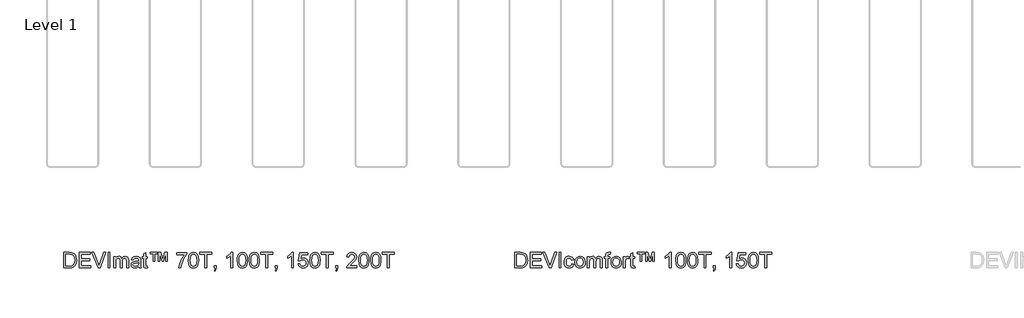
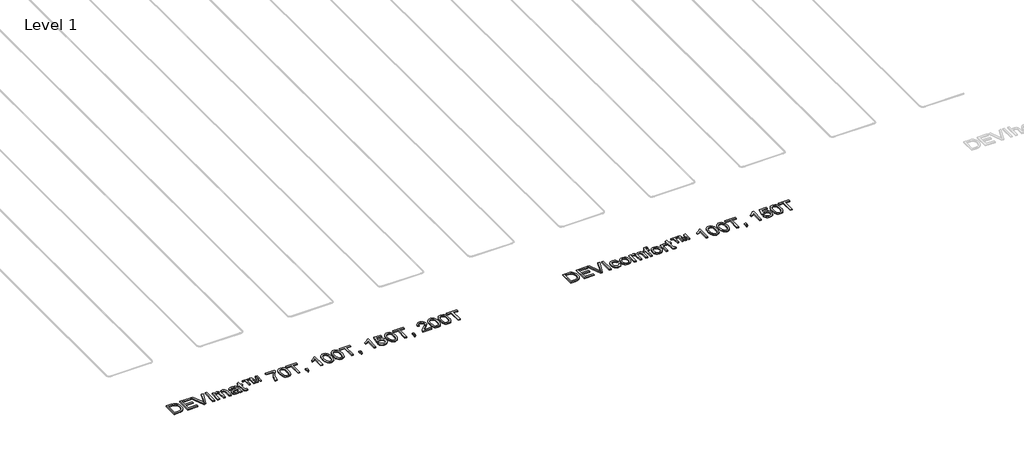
# One storey, part 10 of 26: 2 proxies.
"""IFC4 building model written with IfcOpenShell, lengths in millimetres."""

import ifcopenshell
import ifcopenshell.guid

model = None  # the IFC model being written
_history = None  # IfcOwnerHistory: only IFC2X3 demands one
_inside = {}  # id of a spatial element -> (the spatial element, [elements in it])
_under = {}  # id of a project, library or spatial element -> (it, [spatial elements below it])
_declared = {}  # id of a project -> (the project, [libraries it declares])
_typed = {}  # id of a type object -> (the type object, [elements of that type])
_made_of = {}  # id of a material, layer set ... -> (it, [elements and type objects made of it])


def new_model(schema):
    """Start an empty IFC model of exactly this schema.

    Asked for "IFC4X3", IfcOpenShell would pick the latest addendum, in which some entities
    have other attributes; the version numbers below select the first issue.
    IFC2X3 requires an IfcOwnerHistory on every rooted entity: one is made here for all.
    """
    global model, _history
    if schema == "IFC4X3":
        model = ifcopenshell.file(schema_version=(4, 3, 0, 0))
    else:
        model = ifcopenshell.file(schema=schema)
    _inside.clear()
    _under.clear()
    _declared.clear()
    _typed.clear()
    _made_of.clear()
    _history = None
    if model.schema == "IFC2X3":
        org = make("IfcOrganization", Name="unknown")
        user = make(
            "IfcPersonAndOrganization",
            ThePerson=make("IfcPerson", FamilyName="unknown"),
            TheOrganization=org,
        )
        app = make(
            "IfcApplication",
            ApplicationDeveloper=org,
            Version="unknown",
            ApplicationFullName="unknown",
            ApplicationIdentifier="unknown",
        )
        _history = make(
            "IfcOwnerHistory",
            OwningUser=user,
            OwningApplication=app,
            ChangeAction="ADDED",
            CreationDate=0,
        )
    return model


def make(cls, **values):
    """One entity of the class cls with the attributes given. An attribute that is None is left unset."""
    return model.create_entity(
        cls, **{name: value for name, value in values.items() if value is not None}
    )


def rooted(cls, **values):
    """An entity with a GlobalId (a new one), such as an element, a storey or a relation."""
    return make(cls, GlobalId=ifcopenshell.guid.new(), OwnerHistory=_history, **values)


def si_unit(unit_type, name, prefix=None):
    """IfcSIUnit, for example si_unit("LENGTHUNIT", "METRE", prefix="MILLI")."""
    return make("IfcSIUnit", UnitType=unit_type, Prefix=prefix, Name=name)


def assignment(units):
    """IfcUnitAssignment: the units of a project."""
    return None if units is None else make("IfcUnitAssignment", Units=units)


def point(xyz):
    """IfcCartesianPoint."""
    return None if xyz is None else make("IfcCartesianPoint", Coordinates=xyz)


def direction(xyz):
    """IfcDirection."""
    return None if xyz is None else make("IfcDirection", DirectionRatios=xyz)


def frame(location, z_axis=None, x_axis=None):
    """IfcAxis2Placement3D, a coordinate frame: its origin and axes. An axis left out is left unset."""
    return make(
        "IfcAxis2Placement3D",
        Location=point(location),
        Axis=direction(z_axis),
        RefDirection=direction(x_axis),
    )


def origin():
    """The frame at (0, 0, 0) with its axes left unset."""
    return frame((0.0, 0.0, 0.0))


def origin_with_axes():
    """The frame at (0, 0, 0) with the z axis (0, 0, 1) and the x axis (1, 0, 0) written out."""
    return frame((0.0, 0.0, 0.0), z_axis=(0.0, 0.0, 1.0), x_axis=(1.0, 0.0, 0.0))


def place(relative_to, where):
    """IfcLocalPlacement: puts the frame where relative to a parent placement (None: the world)."""
    return make(
        "IfcLocalPlacement", PlacementRelTo=relative_to, RelativePlacement=where
    )


def context(
    kind, dimensions, precision=None, world=None, true_north=None, identifier=None
):
    """IfcGeometricRepresentationContext, for example the 3D "Model" context."""
    return make(
        "IfcGeometricRepresentationContext",
        ContextIdentifier=identifier,
        ContextType=kind,
        CoordinateSpaceDimension=dimensions,
        Precision=precision,
        WorldCoordinateSystem=world,
        TrueNorth=true_north,
    )


def project(units=None, contexts=None):
    """IfcProject with its units and contexts."""
    return rooted(
        "IfcProject",
        Name="project",
        RepresentationContexts=contexts,
        UnitsInContext=assignment(units),
    )


def spatial(cls, under=None, at=None, **own):
    """A site, building, storey or space (cls), placed at a placement, below another one or the project."""
    s = rooted(cls, ObjectPlacement=at, **own)
    if under is not None:
        _under.setdefault(under.id(), (under, []))[1].append(s)
    return s


def polyline(points):
    """IfcPolyline through the points."""
    return make("IfcPolyline", Points=[point(p) for p in points])


def outline(outer, holes=None, kind="AREA"):
    """IfcArbitraryClosedProfileDef: a profile drawn as a closed curve; with holes, ...WithVoids."""
    if holes is None:
        return make("IfcArbitraryClosedProfileDef", ProfileType=kind, OuterCurve=outer)
    return make(
        "IfcArbitraryProfileDefWithVoids",
        ProfileType=kind,
        OuterCurve=outer,
        InnerCurves=holes,
    )


def extrude(swept, where, along, depth):
    """IfcExtrudedAreaSolid: the profile swept, set in the frame where, extruded along a direction by depth."""
    return make(
        "IfcExtrudedAreaSolid",
        SweptArea=swept,
        Position=where,
        ExtrudedDirection=direction(along),
        Depth=depth,
    )


def shape(context_of_items, identifier, shape_type, items):
    """IfcShapeRepresentation: the items that make up one representation, for example the "Body"."""
    return make(
        "IfcShapeRepresentation",
        ContextOfItems=context_of_items,
        RepresentationIdentifier=identifier,
        RepresentationType=shape_type,
        Items=items,
    )


def made_of(thing, what):
    """Note that an element or type object is made of a material, layer set ...; save() writes the relation."""
    if what is not None:
        _made_of.setdefault(what.id(), (what, []))[1].append(thing)
    return thing


def element(
    cls,
    number,
    at=None,
    inside=None,
    cuts=None,
    type_object=None,
    material=None,
    context=None,
    identifier="Body",
    shape_type=None,
    held_by="IfcProductDefinitionShape",
    body=None,
    shapes=None,
    **own,
):
    """One element of the class cls, such as IfcWall. Its Tag is "e" and its number.

    at: its placement. inside: the storey or other place that contains it. cuts: it is an
    opening in that element (IfcRelVoidsElement). A single representation is given by context,
    identifier, shape_type and body (its items); several are given by shapes. held_by: the class
    of the entity that holds the representations. save() writes the other relations.
    """
    e = rooted(cls, Tag="e%d" % number, ObjectPlacement=at, **own)
    if body is not None:
        shapes = [shape(context, identifier, shape_type, body)]
    if shapes is not None:
        e.Representation = make(held_by, Representations=shapes)
    if inside is not None:
        _inside.setdefault(inside.id(), (inside, []))[1].append(e)
    if cuts is not None:
        rooted(
            "IfcRelVoidsElement", RelatingBuildingElement=cuts, RelatedOpeningElement=e
        )
    if type_object is not None:
        _typed.setdefault(type_object.id(), (type_object, []))[1].append(e)
    return made_of(e, material)


def aggregate(whole, parts):
    """IfcRelAggregates: a whole, such as a stair, and the parts it consists of."""
    return rooted("IfcRelAggregates", RelatingObject=whole, RelatedObjects=parts)


def save(model, path):
    """Write the relations noted so far, then the file.

    IfcRelAggregates (storeys below a building ...), IfcRelContainedInSpatialStructure (elements
    in a storey), IfcRelDefinesByType, IfcRelAssociatesMaterial and IfcRelDeclares: one each for
    every whole, place, type object, material and project.
    """
    for whole, parts in _under.values():
        aggregate(whole, parts)
    for where, things in _inside.values():
        rooted(
            "IfcRelContainedInSpatialStructure",
            RelatedElements=things,
            RelatingStructure=where,
        )
    for kind, things in _typed.values():
        rooted("IfcRelDefinesByType", RelatedObjects=things, RelatingType=kind)
    for what, things in _made_of.values():
        rooted("IfcRelAssociatesMaterial", RelatedObjects=things, RelatingMaterial=what)
    for by, libraries in _declared.values():
        rooted("IfcRelDeclares", RelatingContext=by, RelatedDefinitions=libraries)
    model.write(path)


model = new_model("IFC4")

# Units and contexts
model_context = context("Model", 3, world=origin())
ifc_project = project(units=[si_unit("LENGTHUNIT", "METRE", prefix="MILLI")], contexts=[model_context])

# Site, building, storey
site = spatial("IfcSite", under=ifc_project)
building = spatial("IfcBuilding", under=site)
storey = spatial("IfcBuildingStorey", under=building, Name="Level 1", Elevation=0.0)

# Proxies
placement = place(None, origin())
element("IfcBuildingElementProxy", 1, Name="150mm", ObjectType="150mm", at=placement, inside=storey, context=model_context, shape_type="SweptSolid", body=[
    extrude(outline(polyline([(-11423.7604427, -27720.7202), (-11423.7604427, -27570.0357347), (-11371.7787168, -27570.0357347), (-11344.886543, -27572.2062385), (-11322.7400468, -27582.985181), (-11312.3197893, -27594.4630992), (-11304.8977701, -27608.7369206), (-11300.455595, -27625.5307337), (-11298.97487, -27644.568627), (-11302.9847837, -27674.9740739), (-11313.2854796, -27696.9182349), (-11327.0442662, -27710.585051), (-11345.0520899, -27718.145026), (-11369.2771192, -27720.7202), (-11423.7604427, -27720.7202)]), holes=[polyline([(-11404.9248846, -27701.8846418), (-11371.5947758, -27701.8846418), (-11347.3513523, -27699.162315), (-11333.3718365, -27691.4735813), (-11321.9123124, -27672.7667819), (-11317.8104281, -27644.2743214), (-11319.8199835, -27623.746506), (-11325.8486497, -27608.5897678), (-11334.7559925, -27598.1787074), (-11345.4015777, -27591.8879252), (-11372.1098106, -27588.8712929), (-11404.9248846, -27588.8712929), (-11404.9248846, -27701.8846418)])]), origin_with_axes(), (0.0, 0.0, 1.0), 10.0),
    extrude(outline(polyline([(-11273.0759775, -27720.7202), (-11273.0759775, -27570.0357347), (-11164.7715181, -27570.0357347), (-11164.7715181, -27588.8712929), (-11254.2404193, -27588.8712929), (-11254.2404193, -27633.6057435), (-11169.4804077, -27633.6057435), (-11169.4804077, -27652.4413017), (-11254.2404193, -27652.4413017), (-11254.2404193, -27701.8846418), (-11162.4170733, -27701.8846418), (-11162.4170733, -27720.7202), (-11273.0759775, -27720.7202)])), origin_with_axes(), (0.0, 0.0, 1.0), 10.0),
    extrude(outline(polyline([(-11089.6500147, -27720.7202), (-11149.6147799, -27570.0357347), (-11129.4548466, -27570.0357347), (-11089.3189209, -27678.5977115), (-11081.1887288, -27703.0618642), (-11073.1689013, -27678.5977115), (-11032.922611, -27570.0357347), (-11012.7626777, -27570.0357347), (-11070.1890572, -27720.7202), (-11089.6500147, -27720.7202)])), origin_with_axes(), (0.0, 0.0, 1.0), 10.0),
    extrude(outline(polyline([(-10992.89705, -27720.7202), (-10992.89705, -27570.0357347), (-10974.0614918, -27570.0357347), (-10974.0614918, -27720.7202), (-10992.89705, -27720.7202)])), origin_with_axes(), (0.0, 0.0, 1.0), 10.0),
    extrude(outline(polyline([(-10938.7448203, -27720.7202), (-10938.7448203, -27610.0612958), (-10919.9092621, -27610.0612958), (-10919.9092621, -27628.2714546), (-10906.9598159, -27613.3538397), (-10888.5289279, -27607.706851), (-10878.0534881, -27609.1461893), (-10869.6565816, -27613.4642043), (-10859.2823093, -27629.5958298), (-10844.5854236, -27613.1790957), (-10826.025777, -27607.706851), (-10811.8669187, -27609.9831209), (-10801.3960774, -27616.8119304), (-10794.9259528, -27628.3772206), (-10792.7692446, -27644.8629326), (-10792.7692446, -27720.7202), (-10811.6048027, -27720.7202), (-10811.6048027, -27652.9563364), (-10813.3522422, -27637.2293812), (-10819.6798125, -27629.4854652), (-10830.4403609, -27626.5424092), (-10840.6444877, -27628.4278044), (-10848.9632194, -27634.0839901), (-10854.4952449, -27643.8972423), (-10856.3392534, -27658.2538372), (-10856.3392534, -27720.7202), (-10875.1748115, -27720.7202), (-10875.1748115, -27650.8594091), (-10879.5342132, -27632.6124621), (-10885.2869679, -27628.0599224), (-10893.8264287, -27626.5424092), (-10907.7691563, -27630.5891111), (-10917.0397826, -27642.4349114), (-10919.9092621, -27664.9125013), (-10919.9092621, -27720.7202), (-10938.7448203, -27720.7202)])), origin_with_axes(), (0.0, 0.0, 1.0), 10.0),
    extrude(outline(polyline([(-10693.8825643, -27706.5935313), (-10712.1479053, -27719.3590366), (-10732.3262328, -27723.0746447), (-10748.0669837, -27720.8397616), (-10759.6782591, -27714.1351122), (-10766.8381625, -27703.953978), (-10769.2247969, -27691.2896403), (-10765.6195533, -27676.3904195), (-10756.146592, -27665.5746889), (-10742.9580224, -27659.3942714), (-10726.6608501, -27656.56158), (-10693.9929289, -27650.0868569), (-10693.8825643, -27645.8930021), (-10695.1793483, -27637.4868985), (-10699.0697004, -27631.9870627), (-10707.7701096, -27627.9035726), (-10719.8918213, -27626.5424092), (-10738.9481087, -27630.1660468), (-10748.034794, -27643.0235226), (-10766.8703521, -27640.6690778), (-10758.7217659, -27622.274978), (-10742.314229, -27611.4960356), (-10717.4638002, -27607.706851), (-10694.6367224, -27611.0545772), (-10681.7424584, -27619.4606808), (-10675.9667111, -27632.2445801), (-10675.0470061, -27648.7256935), (-10675.0470061, -27672.1597766), (-10674.0905129, -27704.8828801), (-10670.3381166, -27720.7202), (-10689.1736748, -27720.7202), (-10693.8825643, -27706.5935313)]), holes=[polyline([(-10693.8825643, -27668.922415), (-10724.2696171, -27674.6981624), (-10740.474819, -27677.7515829), (-10747.8140648, -27682.7179899), (-10750.3892387, -27689.9652652), (-10744.7790383, -27700.1555964), (-10728.316319, -27704.2390866), (-10709.2600317, -27699.7325321), (-10696.972773, -27688.824831), (-10693.9929289, -27674.256704), (-10693.8825643, -27668.922415)])]), origin_with_axes(), (0.0, 0.0, 1.0), 10.0),
    extrude(outline(polyline([(-10609.1225526, -27705.0116388), (-10606.7681078, -27721.272023), (-10620.8579882, -27723.0746447), (-10636.6401258, -27719.9476478), (-10644.5128005, -27711.7438793), (-10646.7936689, -27690.3699354), (-10646.7936689, -27628.896854), (-10660.9203375, -27628.896854), (-10660.9203375, -27610.0612958), (-10646.7936689, -27610.0612958), (-10646.7936689, -27583.169122), (-10627.9581108, -27572.0958739), (-10627.9581108, -27610.0612958), (-10609.1225526, -27610.0612958), (-10609.1225526, -27628.896854), (-10627.9581108, -27628.896854), (-10627.9581108, -27689.8181124), (-10626.9648294, -27699.530197), (-10623.7458619, -27702.9698937), (-10617.3263211, -27704.2390866), (-10609.1225526, -27705.0116388)])), origin_with_axes(), (0.0, 0.0, 1.0), 10.0),
    extrude(outline(polyline([(-10503.172538, -27654.7957464), (-10503.172538, -27570.0357347), (-10482.2768407, -27570.0357347), (-10460.7189557, -27638.0939038), (-10439.4185882, -27570.0357347), (-10418.4125263, -27570.0357347), (-10418.4125263, -27654.7957464), (-10432.5391949, -27654.7957464), (-10432.5391949, -27585.1924729), (-10453.7291978, -27654.7957464), (-10467.8558665, -27654.7957464), (-10489.0458694, -27584.1624033), (-10489.0458694, -27654.7957464), (-10503.172538, -27654.7957464)])), origin_with_axes(), (0.0, 0.0, 1.0), 10.0),
    extrude(outline(polyline([(-10554.9703229, -27654.7957464), (-10554.9703229, -27584.1624033), (-10583.2236601, -27584.1624033), (-10583.2236601, -27570.0357347), (-10512.5903171, -27570.0357347), (-10512.5903171, -27584.1624033), (-10540.8436543, -27584.1624033), (-10540.8436543, -27654.7957464), (-10554.9703229, -27654.7957464)])), origin_with_axes(), (0.0, 0.0, 1.0), 10.0),
    extrude(outline(polyline([(-10326.5891803, -27591.2257377), (-10326.5891803, -27572.3901795), (-10227.7025, -27572.3901795), (-10227.7025, -27587.6204941), (-10255.7535021, -27628.1426959), (-10268.0637534, -27653.6047285), (-10277.2194166, -27679.7749339), (-10284.2091745, -27720.7202), (-10303.0447326, -27720.7202), (-10295.558334, -27678.2298295), (-10286.8441293, -27653.7702754), (-10275.0121246, -27630.202835), (-10246.5380582, -27591.2257377), (-10326.5891803, -27591.2257377)])), origin_with_axes(), (0.0, 0.0, 1.0), 10.0),
    extrude(outline(polyline([(-10211.2213866, -27646.5919779), (-10209.8372306, -27622.4727146), (-10205.6847626, -27603.2370848), (-10198.8053693, -27588.5907829), (-10189.2404374, -27578.2395032), (-10176.9209891, -27572.0866769), (-10161.7780465, -27570.0357347), (-10139.7787032, -27574.8917771), (-10124.5851768, -27588.889687), (-10115.7560089, -27611.1833359), (-10112.3347063, -27646.5919779), (-10113.7050667, -27670.5732855), (-10117.816148, -27689.7629301), (-10124.6541546, -27704.4230276), (-10134.2052909, -27714.8156939), (-10146.5523304, -27721.009907), (-10161.7780465, -27723.0746447), (-10181.3493686, -27719.4877953), (-10196.2118012, -27708.7272469), (-10207.4689903, -27683.2422217), (-10211.2213866, -27646.5919779)]), holes=[polyline([(-10192.3858285, -27646.5551897), (-10190.1785365, -27676.1834859), (-10183.5566606, -27693.3313854), (-10173.6974231, -27701.5121613), (-10161.7780465, -27704.2390866), (-10149.8586698, -27701.5029642), (-10139.9994324, -27693.2945972), (-10133.3775564, -27676.1375007), (-10131.1702645, -27646.5551897), (-10133.30398, -27617.5936797), (-10139.7051268, -27600.3124229), (-10149.5459701, -27591.7315754), (-10161.9987757, -27588.8712929), (-10173.7893936, -27591.3912846), (-10183.262355, -27598.9512596), (-10190.1049601, -27617.3085711), (-10192.3858285, -27646.5551897)])]), origin_with_axes(), (0.0, 0.0, 1.0), 10.0),
    extrude(outline(polyline([(-10051.1191423, -27720.7202), (-10051.1191423, -27588.8712929), (-10100.5624825, -27588.8712929), (-10100.5624825, -27570.0357347), (-9982.840244, -27570.0357347), (-9982.840244, -27588.8712929), (-10032.2835842, -27588.8712929), (-10032.2835842, -27720.7202), (-10051.1191423, -27720.7202)])), origin_with_axes(), (0.0, 0.0, 1.0), 10.0),
    extrude(outline(polyline([(-9959.2957963, -27720.7202), (-9959.2957963, -27701.8846418), (-9940.4602382, -27701.8846418), (-9940.4602382, -27720.7202), (-9943.8447525, -27739.9788224), (-9954.5869068, -27751.327982), (-9959.2957963, -27744.2646476), (-9952.3796148, -27736.1344556), (-9949.9148054, -27720.7202), (-9959.2957963, -27720.7202)])), origin_with_axes(), (0.0, 0.0, 1.0), 10.0),
    extrude(outline(polyline([(-9780.3579939, -27720.7202), (-9799.193552, -27720.7202), (-9799.193552, -27603.2922671), (-9817.0358288, -27616.00259), (-9836.8646683, -27625.5123396), (-9836.8646683, -27607.706851), (-9809.2551246, -27590.0853035), (-9792.4980997, -27570.0357347), (-9780.3579939, -27570.0357347), (-9780.3579939, -27720.7202)])), origin_with_axes(), (0.0, 0.0, 1.0), 10.0),
    extrude(outline(polyline([(-9735.6235433, -27646.5919779), (-9734.2393872, -27622.4727146), (-9730.0869192, -27603.2370848), (-9723.2075259, -27588.5907829), (-9713.642594, -27578.2395032), (-9701.3231457, -27572.0866769), (-9686.1802031, -27570.0357347), (-9664.1808598, -27574.8917771), (-9648.9873334, -27588.889687), (-9640.1581655, -27611.1833359), (-9636.7368629, -27646.5919779), (-9638.1072234, -27670.5732855), (-9642.2183047, -27689.7629301), (-9649.0563113, -27704.4230276), (-9658.6074476, -27714.8156939), (-9670.954487, -27721.009907), (-9686.1802031, -27723.0746447), (-9705.7515252, -27719.4877953), (-9720.6139578, -27708.7272469), (-9731.8711469, -27683.2422217), (-9735.6235433, -27646.5919779)]), holes=[polyline([(-9716.7879851, -27646.5551897), (-9714.5806931, -27676.1834859), (-9707.9588172, -27693.3313854), (-9698.0995797, -27701.5121613), (-9686.1802031, -27704.2390866), (-9674.2608265, -27701.5029642), (-9664.401589, -27693.2945972), (-9657.7797131, -27676.1375007), (-9655.5724211, -27646.5551897), (-9657.7061367, -27617.5936797), (-9664.1072834, -27600.3124229), (-9673.9481268, -27591.7315754), (-9686.4009323, -27588.8712929), (-9698.1915502, -27591.3912846), (-9707.6645116, -27598.9512596), (-9714.5071167, -27617.3085711), (-9716.7879851, -27646.5551897)])]), origin_with_axes(), (0.0, 0.0, 1.0), 10.0),
    extrude(outline(polyline([(-9620.2557496, -27646.5919779), (-9618.8715936, -27622.4727146), (-9614.7191255, -27603.2370848), (-9607.8397322, -27588.5907829), (-9598.2748004, -27578.2395032), (-9585.955352, -27572.0866769), (-9570.8124094, -27570.0357347), (-9548.8130661, -27574.8917771), (-9533.6195397, -27588.889687), (-9524.7903718, -27611.1833359), (-9521.3690693, -27646.5919779), (-9522.7394297, -27670.5732855), (-9526.850511, -27689.7629301), (-9533.6885176, -27704.4230276), (-9543.2396539, -27714.8156939), (-9555.5866933, -27721.009907), (-9570.8124094, -27723.0746447), (-9590.3837316, -27719.4877953), (-9605.2461642, -27708.7272469), (-9616.5033532, -27683.2422217), (-9620.2557496, -27646.5919779)]), holes=[polyline([(-9601.4201914, -27646.5551897), (-9599.2128994, -27676.1834859), (-9592.5910235, -27693.3313854), (-9582.7317861, -27701.5121613), (-9570.8124094, -27704.2390866), (-9558.8930328, -27701.5029642), (-9549.0337953, -27693.2945972), (-9542.4119194, -27676.1375007), (-9540.2046274, -27646.5551897), (-9542.338343, -27617.5936797), (-9548.7394897, -27600.3124229), (-9558.5803331, -27591.7315754), (-9571.0331386, -27588.8712929), (-9582.8237566, -27591.3912846), (-9592.2967179, -27598.9512596), (-9599.139323, -27617.3085711), (-9601.4201914, -27646.5551897)])]), origin_with_axes(), (0.0, 0.0, 1.0), 10.0),
    extrude(outline(polyline([(-9460.1535053, -27720.7202), (-9460.1535053, -27588.8712929), (-9509.5968454, -27588.8712929), (-9509.5968454, -27570.0357347), (-9391.874607, -27570.0357347), (-9391.874607, -27588.8712929), (-9441.3179471, -27588.8712929), (-9441.3179471, -27720.7202), (-9460.1535053, -27720.7202)])), origin_with_axes(), (0.0, 0.0, 1.0), 10.0),
    extrude(outline(polyline([(-9368.3301593, -27720.7202), (-9368.3301593, -27701.8846418), (-9349.4946011, -27701.8846418), (-9349.4946011, -27720.7202), (-9352.8791155, -27739.9788224), (-9363.6212697, -27751.327982), (-9368.3301593, -27744.2646476), (-9361.4139778, -27736.1344556), (-9358.9491684, -27720.7202), (-9368.3301593, -27720.7202)])), origin_with_axes(), (0.0, 0.0, 1.0), 10.0),
    extrude(outline(polyline([(-9189.3923568, -27720.7202), (-9208.227915, -27720.7202), (-9208.227915, -27603.2922671), (-9226.0701917, -27616.00259), (-9245.8990313, -27625.5123396), (-9245.8990313, -27607.706851), (-9218.2894875, -27590.0853035), (-9201.5324627, -27570.0357347), (-9189.3923568, -27570.0357347), (-9189.3923568, -27720.7202)])), origin_with_axes(), (0.0, 0.0, 1.0), 10.0),
    extrude(outline(polyline([(-9144.6579062, -27680.6946389), (-9125.822348, -27678.3401941), (-9122.3642573, -27689.6479669), (-9116.3309926, -27697.7459694), (-9107.750145, -27702.6158073), (-9096.6493058, -27704.2390866), (-9083.1480366, -27701.9812108), (-9073.0312817, -27695.2075836), (-9066.7129085, -27684.6999541), (-9064.606784, -27671.2400716), (-9066.5795512, -27658.5665369), (-9072.4978528, -27648.8728463), (-9082.4076741, -27642.7200199), (-9096.3550002, -27640.6690778), (-9112.8912959, -27643.9432276), (-9123.4679033, -27652.4413017), (-9142.3034614, -27650.0868569), (-9125.822348, -27572.3901795), (-9052.8345602, -27572.3901795), (-9052.8345602, -27591.2257377), (-9110.5920334, -27591.2257377), (-9118.6486491, -27632.7228267), (-9105.1933652, -27624.5558464), (-9091.0942877, -27621.8335197), (-9073.4957328, -27625.208837), (-9058.886219, -27635.3347889), (-9049.0499742, -27650.7674386), (-9045.7712259, -27670.0628492), (-9048.7234789, -27688.8984074), (-9057.5802379, -27705.0116388), (-9074.5395979, -27718.5588932), (-9096.7228822, -27723.0746447), (-9115.2227481, -27720.1729755), (-9129.9610205, -27711.4679678), (-9140.0639798, -27697.9712971), (-9144.6579062, -27680.6946389)])), origin_with_axes(), (0.0, 0.0, 1.0), 10.0),
    extrude(outline(polyline([(-9029.2901125, -27646.5919779), (-9027.9059565, -27622.4727146), (-9023.7534885, -27603.2370848), (-9016.8740952, -27588.5907829), (-9007.3091633, -27578.2395032), (-8994.989715, -27572.0866769), (-8979.8467724, -27570.0357347), (-8957.847429, -27574.8917771), (-8942.6539026, -27588.889687), (-8933.8247348, -27611.1833359), (-8930.4034322, -27646.5919779), (-8931.7737926, -27670.5732855), (-8935.8848739, -27689.7629301), (-8942.7228805, -27704.4230276), (-8952.2740168, -27714.8156939), (-8964.6210563, -27721.009907), (-8979.8467724, -27723.0746447), (-8999.4180945, -27719.4877953), (-9014.2805271, -27708.7272469), (-9025.5377162, -27683.2422217), (-9029.2901125, -27646.5919779)]), holes=[polyline([(-9010.4545544, -27646.5551897), (-9008.2472624, -27676.1834859), (-9001.6253865, -27693.3313854), (-8991.766149, -27701.5121613), (-8979.8467724, -27704.2390866), (-8967.9273957, -27701.5029642), (-8958.0681582, -27693.2945972), (-8951.4462823, -27676.1375007), (-8949.2389904, -27646.5551897), (-8951.3727059, -27617.5936797), (-8957.7738527, -27600.3124229), (-8967.614696, -27591.7315754), (-8980.0675016, -27588.8712929), (-8991.8581195, -27591.3912846), (-9001.3310809, -27598.9512596), (-9008.173686, -27617.3085711), (-9010.4545544, -27646.5551897)])]), origin_with_axes(), (0.0, 0.0, 1.0), 10.0),
    extrude(outline(polyline([(-8869.1878682, -27720.7202), (-8869.1878682, -27588.8712929), (-8918.6312084, -27588.8712929), (-8918.6312084, -27570.0357347), (-8800.9089699, -27570.0357347), (-8800.9089699, -27588.8712929), (-8850.3523101, -27588.8712929), (-8850.3523101, -27720.7202), (-8869.1878682, -27720.7202)])), origin_with_axes(), (0.0, 0.0, 1.0), 10.0),
    extrude(outline(polyline([(-8777.3645222, -27720.7202), (-8777.3645222, -27701.8846418), (-8758.5289641, -27701.8846418), (-8758.5289641, -27720.7202), (-8761.9134784, -27739.9788224), (-8772.6556327, -27751.327982), (-8777.3645222, -27744.2646476), (-8770.4483407, -27736.1344556), (-8767.9835313, -27720.7202), (-8777.3645222, -27720.7202)])), origin_with_axes(), (0.0, 0.0, 1.0), 10.0),
    extrude(outline(polyline([(-8572.5278273, -27701.8846418), (-8572.5278273, -27720.7202), (-8671.4145076, -27720.7202), (-8669.3911566, -27707.7339655), (-8657.9500266, -27687.7395791), (-8634.3687907, -27665.9057827), (-8601.8480223, -27634.5254485), (-8595.7503782, -27623.7097178), (-8593.7178302, -27613.1882928), (-8595.6354151, -27603.7567181), (-8601.3881698, -27595.9162331), (-8610.2311333, -27590.6325279), (-8621.4193445, -27588.8712929), (-8633.1685757, -27590.5911412), (-8642.2966477, -27595.7506862), (-8648.1873581, -27603.9452576), (-8650.2245047, -27614.7701853), (-8669.0600628, -27612.4157406), (-8664.4937276, -27594.1963848), (-8654.6206945, -27580.8882536), (-8639.9559985, -27572.7488644), (-8621.0146743, -27570.0357347), (-8601.9353943, -27573.0523671), (-8587.2982894, -27582.1022642), (-8577.9862764, -27595.6219275), (-8574.8822721, -27612.0478586), (-8578.2299982, -27629.9085294), (-8589.3584286, -27648.3762056), (-8616.3425729, -27674.1831276), (-8638.0108224, -27692.3013158), (-8646.5088965, -27701.8846418), (-8572.5278273, -27701.8846418)])), origin_with_axes(), (0.0, 0.0, 1.0), 10.0),
    extrude(outline(polyline([(-8553.6922691, -27646.5919779), (-8552.3081131, -27622.4727146), (-8548.1556451, -27603.2370848), (-8541.2762518, -27588.5907829), (-8531.7113199, -27578.2395032), (-8519.3918716, -27572.0866769), (-8504.248929, -27570.0357347), (-8482.2495857, -27574.8917771), (-8467.0560593, -27588.889687), (-8458.2268914, -27611.1833359), (-8454.8055888, -27646.5919779), (-8456.1759493, -27670.5732855), (-8460.2870306, -27689.7629301), (-8467.1250372, -27704.4230276), (-8476.6761735, -27714.8156939), (-8489.0232129, -27721.009907), (-8504.248929, -27723.0746447), (-8523.8202511, -27719.4877953), (-8538.6826837, -27708.7272469), (-8549.9398728, -27683.2422217), (-8553.6922691, -27646.5919779)]), holes=[polyline([(-8534.856711, -27646.5551897), (-8532.649419, -27676.1834859), (-8526.0275431, -27693.3313854), (-8516.1683056, -27701.5121613), (-8504.248929, -27704.2390866), (-8492.3295524, -27701.5029642), (-8482.4703149, -27693.2945972), (-8475.848439, -27676.1375007), (-8473.641147, -27646.5551897), (-8475.7748626, -27617.5936797), (-8482.1760093, -27600.3124229), (-8492.0168527, -27591.7315754), (-8504.4696582, -27588.8712929), (-8516.2602761, -27591.3912846), (-8525.7332375, -27598.9512596), (-8532.5758426, -27617.3085711), (-8534.856711, -27646.5551897)])]), origin_with_axes(), (0.0, 0.0, 1.0), 10.0),
    extrude(outline(polyline([(-8438.3244755, -27646.5919779), (-8436.9403195, -27622.4727146), (-8432.7878514, -27603.2370848), (-8425.9084581, -27588.5907829), (-8416.3435262, -27578.2395032), (-8404.0240779, -27572.0866769), (-8388.8811353, -27570.0357347), (-8366.881792, -27574.8917771), (-8351.6882656, -27588.889687), (-8342.8590977, -27611.1833359), (-8339.4377952, -27646.5919779), (-8340.8081556, -27670.5732855), (-8344.9192369, -27689.7629301), (-8351.7572435, -27704.4230276), (-8361.3083798, -27714.8156939), (-8373.6554192, -27721.009907), (-8388.8811353, -27723.0746447), (-8408.4524575, -27719.4877953), (-8423.3148901, -27708.7272469), (-8434.5720791, -27683.2422217), (-8438.3244755, -27646.5919779)]), holes=[polyline([(-8419.4889173, -27646.5551897), (-8417.2816253, -27676.1834859), (-8410.6597494, -27693.3313854), (-8400.800512, -27701.5121613), (-8388.8811353, -27704.2390866), (-8376.9617587, -27701.5029642), (-8367.1025212, -27693.2945972), (-8360.4806453, -27676.1375007), (-8358.2733533, -27646.5551897), (-8360.4070689, -27617.5936797), (-8366.8082156, -27600.3124229), (-8376.649059, -27591.7315754), (-8389.1018645, -27588.8712929), (-8400.8924825, -27591.3912846), (-8410.3654438, -27598.9512596), (-8417.2080489, -27617.3085711), (-8419.4889173, -27646.5551897)])]), origin_with_axes(), (0.0, 0.0, 1.0), 10.0),
    extrude(outline(polyline([(-8278.2222312, -27720.7202), (-8278.2222312, -27588.8712929), (-8327.6655713, -27588.8712929), (-8327.6655713, -27570.0357347), (-8209.9433329, -27570.0357347), (-8209.9433329, -27588.8712929), (-8259.386673, -27588.8712929), (-8259.386673, -27720.7202), (-8278.2222312, -27720.7202)])), origin_with_axes(), (0.0, 0.0, 1.0), 10.0),
])
element("IfcBuildingElementProxy", 2, Name="150mm", ObjectType="150mm", at=placement, inside=storey, context=model_context, shape_type="SweptSolid", body=[
    extrude(outline(polyline([(-7037.6315006, -27720.7202), (-7037.6315006, -27570.0357347), (-6985.6497747, -27570.0357347), (-6958.7576008, -27572.2062385), (-6936.6111047, -27582.985181), (-6926.1908472, -27594.4630992), (-6918.7688279, -27608.7369206), (-6914.3266528, -27625.5307337), (-6912.8459278, -27644.568627), (-6916.8558416, -27674.9740739), (-6927.1565374, -27696.9182349), (-6940.915324, -27710.585051), (-6958.9231477, -27718.145026), (-6983.1481771, -27720.7202), (-7037.6315006, -27720.7202)]), holes=[polyline([(-7018.7959424, -27701.8846418), (-6985.4658337, -27701.8846418), (-6961.2224102, -27699.162315), (-6947.2428944, -27691.4735813), (-6935.7833702, -27672.7667819), (-6931.681486, -27644.2743214), (-6933.6910414, -27623.746506), (-6939.7197076, -27608.5897678), (-6948.6270504, -27598.1787074), (-6959.2726356, -27591.8879252), (-6985.9808685, -27588.8712929), (-7018.7959424, -27588.8712929), (-7018.7959424, -27701.8846418)])]), origin_with_axes(), (0.0, 0.0, 1.0), 10.0),
    extrude(outline(polyline([(-6886.9470354, -27720.7202), (-6886.9470354, -27570.0357347), (-6778.642576, -27570.0357347), (-6778.642576, -27588.8712929), (-6868.1114772, -27588.8712929), (-6868.1114772, -27633.6057435), (-6783.3514655, -27633.6057435), (-6783.3514655, -27652.4413017), (-6868.1114772, -27652.4413017), (-6868.1114772, -27701.8846418), (-6776.2881312, -27701.8846418), (-6776.2881312, -27720.7202), (-6886.9470354, -27720.7202)])), origin_with_axes(), (0.0, 0.0, 1.0), 10.0),
    extrude(outline(polyline([(-6703.5210726, -27720.7202), (-6763.4858378, -27570.0357347), (-6743.3259044, -27570.0357347), (-6703.1899788, -27678.5977115), (-6695.0597867, -27703.0618642), (-6687.0399592, -27678.5977115), (-6646.7936689, -27570.0357347), (-6626.6337356, -27570.0357347), (-6684.060115, -27720.7202), (-6703.5210726, -27720.7202)])), origin_with_axes(), (0.0, 0.0, 1.0), 10.0),
    extrude(outline(polyline([(-6606.7681078, -27720.7202), (-6606.7681078, -27570.0357347), (-6587.9325497, -27570.0357347), (-6587.9325497, -27720.7202), (-6606.7681078, -27720.7202)])), origin_with_axes(), (0.0, 0.0, 1.0), 10.0),
    extrude(outline(polyline([(-6481.9825351, -27680.6946389), (-6463.1469769, -27683.0490837), (-6468.3984924, -27699.80151), (-6478.2669269, -27712.4612492), (-6491.8233784, -27720.4212958), (-6508.1389449, -27723.0746447), (-6528.1747181, -27719.3728322), (-6543.8418926, -27708.2673944), (-6553.9540489, -27690.2457752), (-6557.3247677, -27665.7954181), (-6555.8854294, -27649.0337947), (-6551.5674145, -27634.5070544), (-6544.301745, -27622.7762173), (-6534.0194433, -27614.4023034), (-6521.7183891, -27609.3807141), (-6508.3964623, -27607.706851), (-6492.4809675, -27610.0061135), (-6479.756849, -27616.9039009), (-6470.628777, -27628.0323313), (-6465.5014217, -27643.0235226), (-6484.3369798, -27645.3779673), (-6493.0741772, -27631.2696928), (-6508.2493095, -27626.5424092), (-6520.421605, -27628.8692628), (-6530.0831059, -27635.8498237), (-6536.3876836, -27647.8611708), (-6538.4892095, -27665.2803833), (-6536.4336689, -27682.9341205), (-6530.2670469, -27694.9868544), (-6520.78029, -27701.9260285), (-6508.7643443, -27704.2390866), (-6499.0108729, -27702.7951497), (-6491.014038, -27698.4633392), (-6485.196904, -27691.1332905), (-6481.9825351, -27680.6946389)])), origin_with_axes(), (0.0, 0.0, 1.0), 10.0),
    extrude(outline(polyline([(-6451.3747531, -27665.3907479), (-6447.30046, -27638.7101062), (-6435.0775807, -27619.9573215), (-6419.9760248, -27610.7694686), (-6401.8946247, -27607.706851), (-6382.1071719, -27611.4362548), (-6366.3020417, -27622.6244659), (-6355.941565, -27640.3885678), (-6352.4880728, -27663.8456435), (-6354.014783, -27682.8743397), (-6358.5949139, -27697.3596933), (-6366.0951081, -27708.2076136), (-6376.3820084, -27716.3240101), (-6388.6002891, -27721.3869861), (-6401.8946247, -27723.0746447), (-6421.9212008, -27719.3590366), (-6437.7079369, -27708.2122121), (-6447.958049, -27690.0756298), (-6451.3747531, -27665.3907479)]), holes=[polyline([(-6432.5391949, -27665.3539597), (-6430.3594941, -27682.4006916), (-6423.8203916, -27694.545396), (-6413.9795483, -27701.8156639), (-6401.8946247, -27704.2390866), (-6389.8648835, -27701.8018684), (-6380.0424342, -27694.4902137), (-6373.5033317, -27682.184561), (-6371.3236309, -27664.7653485), (-6373.5171273, -27648.2152572), (-6380.0976165, -27636.2360998), (-6389.9338613, -27628.9658318), (-6401.8946247, -27626.5424092), (-6413.9795483, -27628.9566348), (-6423.8203916, -27636.1993116), (-6430.3594941, -27648.3164248), (-6432.5391949, -27665.3539597)])]), origin_with_axes(), (0.0, 0.0, 1.0), 10.0),
    extrude(outline(polyline([(-6331.2980698, -27720.7202), (-6331.2980698, -27610.0612958), (-6312.4625117, -27610.0612958), (-6312.4625117, -27628.2714546), (-6299.5130655, -27613.3538397), (-6281.0821775, -27607.706851), (-6270.6067377, -27609.1461893), (-6262.2098311, -27613.4642043), (-6251.8355589, -27629.5958298), (-6237.1386732, -27613.1790957), (-6218.5790265, -27607.706851), (-6204.4201682, -27609.9831209), (-6193.9493269, -27616.8119304), (-6187.4792024, -27628.3772206), (-6185.3224942, -27644.8629326), (-6185.3224942, -27720.7202), (-6204.1580523, -27720.7202), (-6204.1580523, -27652.9563364), (-6205.9054918, -27637.2293812), (-6212.2330621, -27629.4854652), (-6222.9936105, -27626.5424092), (-6233.1977373, -27628.4278044), (-6241.5164689, -27634.0839901), (-6247.0484944, -27643.8972423), (-6248.8925029, -27658.2538372), (-6248.8925029, -27720.7202), (-6267.7280611, -27720.7202), (-6267.7280611, -27650.8594091), (-6272.0874627, -27632.6124621), (-6277.8402174, -27628.0599224), (-6286.3796782, -27626.5424092), (-6300.3224058, -27630.5891111), (-6309.5930321, -27642.4349114), (-6312.4625117, -27664.9125013), (-6312.4625117, -27720.7202), (-6331.2980698, -27720.7202)])), origin_with_axes(), (0.0, 0.0, 1.0), 10.0),
    extrude(outline(polyline([(-6152.3602674, -27720.7202), (-6152.3602674, -27628.896854), (-6168.8413808, -27628.896854), (-6168.8413808, -27610.0612958), (-6152.3602674, -27610.0612958), (-6152.3602674, -27598.9144714), (-6150.3737046, -27583.2059102), (-6140.7351963, -27571.9855093), (-6121.7524854, -27567.68129), (-6104.5723962, -27569.7414291), (-6107.3315112, -27587.3997649), (-6118.18403, -27586.5168481), (-6130.0482244, -27589.6438451), (-6133.5247092, -27601.3057043), (-6133.5247092, -27610.0612958), (-6112.3347063, -27610.0612958), (-6112.3347063, -27628.896854), (-6133.5247092, -27628.896854), (-6133.5247092, -27720.7202), (-6152.3602674, -27720.7202)])), origin_with_axes(), (0.0, 0.0, 1.0), 10.0),
    extrude(outline(polyline([(-6100.5624825, -27665.3907479), (-6096.4881894, -27638.7101062), (-6084.2653101, -27619.9573215), (-6069.1637542, -27610.7694686), (-6051.0823541, -27607.706851), (-6031.2949013, -27611.4362548), (-6015.4897711, -27622.6244659), (-6005.1292944, -27640.3885678), (-6001.6758022, -27663.8456435), (-6003.2025124, -27682.8743397), (-6007.7826433, -27697.3596933), (-6015.2828375, -27708.2076136), (-6025.5697378, -27716.3240101), (-6037.7880185, -27721.3869861), (-6051.0823541, -27723.0746447), (-6071.1089302, -27719.3590366), (-6086.8956663, -27708.2122121), (-6097.1457784, -27690.0756298), (-6100.5624825, -27665.3907479)]), holes=[polyline([(-6081.7269243, -27665.3539597), (-6079.5472235, -27682.4006916), (-6073.008121, -27694.545396), (-6063.1672777, -27701.8156639), (-6051.0823541, -27704.2390866), (-6039.0526129, -27701.8018684), (-6029.2301636, -27694.4902137), (-6022.6910611, -27682.184561), (-6020.5113603, -27664.7653485), (-6022.7048567, -27648.2152572), (-6029.2853459, -27636.2360998), (-6039.1215907, -27628.9658318), (-6051.0823541, -27626.5424092), (-6063.1672777, -27628.9566348), (-6073.008121, -27636.1993116), (-6079.5472235, -27648.3164248), (-6081.7269243, -27665.3539597)])]), origin_with_axes(), (0.0, 0.0, 1.0), 10.0),
    extrude(outline(polyline([(-5980.4857992, -27720.7202), (-5980.4857992, -27610.0612958), (-5964.0046859, -27610.0612958), (-5964.0046859, -27626.4320446), (-5952.3060384, -27611.3488828), (-5940.5338146, -27607.706851), (-5921.62468, -27613.5193866), (-5927.9154621, -27630.4051701), (-5941.159214, -27626.5424092), (-5951.8093977, -27630.2580173), (-5958.5968205, -27640.5587132), (-5961.6502411, -27662.5580565), (-5961.6502411, -27720.7202), (-5980.4857992, -27720.7202)])), origin_with_axes(), (0.0, 0.0, 1.0), 10.0),
    extrude(outline(polyline([(-5869.8268951, -27705.0116388), (-5867.4724503, -27721.272023), (-5881.5623307, -27723.0746447), (-5897.3444683, -27719.9476478), (-5905.217143, -27711.7438793), (-5907.4980114, -27690.3699354), (-5907.4980114, -27628.896854), (-5921.62468, -27628.896854), (-5921.62468, -27610.0612958), (-5907.4980114, -27610.0612958), (-5907.4980114, -27583.169122), (-5888.6624532, -27572.0958739), (-5888.6624532, -27610.0612958), (-5869.8268951, -27610.0612958), (-5869.8268951, -27628.896854), (-5888.6624532, -27628.896854), (-5888.6624532, -27689.8181124), (-5887.6691719, -27699.530197), (-5884.4502044, -27702.9698937), (-5878.0306636, -27704.2390866), (-5869.8268951, -27705.0116388)])), origin_with_axes(), (0.0, 0.0, 1.0), 10.0),
    extrude(outline(polyline([(-5815.6746654, -27654.7957464), (-5815.6746654, -27584.1624033), (-5843.9280026, -27584.1624033), (-5843.9280026, -27570.0357347), (-5773.2946596, -27570.0357347), (-5773.2946596, -27584.1624033), (-5801.5479968, -27584.1624033), (-5801.5479968, -27654.7957464), (-5815.6746654, -27654.7957464)])), origin_with_axes(), (0.0, 0.0, 1.0), 10.0),
    extrude(outline(polyline([(-5763.8768805, -27654.7957464), (-5763.8768805, -27570.0357347), (-5742.9811832, -27570.0357347), (-5721.4232982, -27638.0939038), (-5700.1229307, -27570.0357347), (-5679.1168688, -27570.0357347), (-5679.1168688, -27654.7957464), (-5693.2435374, -27654.7957464), (-5693.2435374, -27585.1924729), (-5714.4335403, -27654.7957464), (-5728.5602089, -27654.7957464), (-5749.7502119, -27584.1624033), (-5749.7502119, -27654.7957464), (-5763.8768805, -27654.7957464)])), origin_with_axes(), (0.0, 0.0, 1.0), 10.0),
    extrude(outline(polyline([(-5516.6601797, -27720.7202), (-5535.4957379, -27720.7202), (-5535.4957379, -27603.2922671), (-5553.3380146, -27616.00259), (-5573.1668542, -27625.5123396), (-5573.1668542, -27607.706851), (-5545.5573104, -27590.0853035), (-5528.8002856, -27570.0357347), (-5516.6601797, -27570.0357347), (-5516.6601797, -27720.7202)])), origin_with_axes(), (0.0, 0.0, 1.0), 10.0),
    extrude(outline(polyline([(-5471.9257291, -27646.5919779), (-5470.5415731, -27622.4727146), (-5466.3891051, -27603.2370848), (-5459.5097118, -27588.5907829), (-5449.9447799, -27578.2395032), (-5437.6253316, -27572.0866769), (-5422.482389, -27570.0357347), (-5400.4830456, -27574.8917771), (-5385.2895192, -27588.889687), (-5376.4603514, -27611.1833359), (-5373.0390488, -27646.5919779), (-5374.4094092, -27670.5732855), (-5378.5204905, -27689.7629301), (-5385.3584971, -27704.4230276), (-5394.9096334, -27714.8156939), (-5407.2566729, -27721.009907), (-5422.482389, -27723.0746447), (-5442.0537111, -27719.4877953), (-5456.9161437, -27708.7272469), (-5468.1733328, -27683.2422217), (-5471.9257291, -27646.5919779)]), holes=[polyline([(-5453.090171, -27646.5551897), (-5450.882879, -27676.1834859), (-5444.2610031, -27693.3313854), (-5434.4017656, -27701.5121613), (-5422.482389, -27704.2390866), (-5410.5630123, -27701.5029642), (-5400.7037748, -27693.2945972), (-5394.0818989, -27676.1375007), (-5391.874607, -27646.5551897), (-5394.0083225, -27617.5936797), (-5400.4094692, -27600.3124229), (-5410.2503126, -27591.7315754), (-5422.7031182, -27588.8712929), (-5434.4937361, -27591.3912846), (-5443.9666975, -27598.9512596), (-5450.8093026, -27617.3085711), (-5453.090171, -27646.5551897)])]), origin_with_axes(), (0.0, 0.0, 1.0), 10.0),
    extrude(outline(polyline([(-5356.5579354, -27646.5919779), (-5355.1737794, -27622.4727146), (-5351.0213114, -27603.2370848), (-5344.1419181, -27588.5907829), (-5334.5769862, -27578.2395032), (-5322.2575379, -27572.0866769), (-5307.1145953, -27570.0357347), (-5285.115252, -27574.8917771), (-5269.9217256, -27588.889687), (-5261.0925577, -27611.1833359), (-5257.6712551, -27646.5919779), (-5259.0416156, -27670.5732855), (-5263.1526968, -27689.7629301), (-5269.9907034, -27704.4230276), (-5279.5418397, -27714.8156939), (-5291.8888792, -27721.009907), (-5307.1145953, -27723.0746447), (-5326.6859174, -27719.4877953), (-5341.54835, -27708.7272469), (-5352.8055391, -27683.2422217), (-5356.5579354, -27646.5919779)]), holes=[polyline([(-5337.7223773, -27646.5551897), (-5335.5150853, -27676.1834859), (-5328.8932094, -27693.3313854), (-5319.0339719, -27701.5121613), (-5307.1145953, -27704.2390866), (-5295.1952186, -27701.5029642), (-5285.3359812, -27693.2945972), (-5278.7141052, -27676.1375007), (-5276.5068133, -27646.5551897), (-5278.6405288, -27617.5936797), (-5285.0416756, -27600.3124229), (-5294.8825189, -27591.7315754), (-5307.3353245, -27588.8712929), (-5319.1259424, -27591.3912846), (-5328.5989038, -27598.9512596), (-5335.4415089, -27617.3085711), (-5337.7223773, -27646.5551897)])]), origin_with_axes(), (0.0, 0.0, 1.0), 10.0),
    extrude(outline(polyline([(-5196.4556911, -27720.7202), (-5196.4556911, -27588.8712929), (-5245.8990313, -27588.8712929), (-5245.8990313, -27570.0357347), (-5128.1767928, -27570.0357347), (-5128.1767928, -27588.8712929), (-5177.620133, -27588.8712929), (-5177.620133, -27720.7202), (-5196.4556911, -27720.7202)])), origin_with_axes(), (0.0, 0.0, 1.0), 10.0),
    extrude(outline(polyline([(-5104.6323451, -27720.7202), (-5104.6323451, -27701.8846418), (-5085.796787, -27701.8846418), (-5085.796787, -27720.7202), (-5089.1813013, -27739.9788224), (-5099.9234556, -27751.327982), (-5104.6323451, -27744.2646476), (-5097.7161636, -27736.1344556), (-5095.2513542, -27720.7202), (-5104.6323451, -27720.7202)])), origin_with_axes(), (0.0, 0.0, 1.0), 10.0),
    extrude(outline(polyline([(-4925.6945427, -27720.7202), (-4944.5301008, -27720.7202), (-4944.5301008, -27603.2922671), (-4962.3723776, -27616.00259), (-4982.2012171, -27625.5123396), (-4982.2012171, -27607.706851), (-4954.5916734, -27590.0853035), (-4937.8346485, -27570.0357347), (-4925.6945427, -27570.0357347), (-4925.6945427, -27720.7202)])), origin_with_axes(), (0.0, 0.0, 1.0), 10.0),
    extrude(outline(polyline([(-4880.9600921, -27680.6946389), (-4862.1245339, -27678.3401941), (-4858.6664431, -27689.6479669), (-4852.6331784, -27697.7459694), (-4844.0523309, -27702.6158073), (-4832.9514917, -27704.2390866), (-4819.4502225, -27701.9812108), (-4809.3334676, -27695.2075836), (-4803.0150943, -27684.6999541), (-4800.9089699, -27671.2400716), (-4802.8817371, -27658.5665369), (-4808.8000387, -27648.8728463), (-4818.7098599, -27642.7200199), (-4832.6571861, -27640.6690778), (-4849.1934818, -27643.9432276), (-4859.7700891, -27652.4413017), (-4878.6056473, -27650.0868569), (-4862.1245339, -27572.3901795), (-4789.1367461, -27572.3901795), (-4789.1367461, -27591.2257377), (-4846.8942193, -27591.2257377), (-4854.950835, -27632.7228267), (-4841.495551, -27624.5558464), (-4827.3964736, -27621.8335197), (-4809.7979186, -27625.208837), (-4795.1884049, -27635.3347889), (-4785.35216, -27650.7674386), (-4782.0734118, -27670.0628492), (-4785.0256648, -27688.8984074), (-4793.8824238, -27705.0116388), (-4810.8417838, -27718.5588932), (-4833.0250681, -27723.0746447), (-4851.5249339, -27720.1729755), (-4866.2632063, -27711.4679678), (-4876.3661656, -27697.9712971), (-4880.9600921, -27680.6946389)])), origin_with_axes(), (0.0, 0.0, 1.0), 10.0),
    extrude(outline(polyline([(-4765.5922984, -27646.5919779), (-4764.2081424, -27622.4727146), (-4760.0556743, -27603.2370848), (-4753.176281, -27588.5907829), (-4743.6113492, -27578.2395032), (-4731.2919008, -27572.0866769), (-4716.1489582, -27570.0357347), (-4694.1496149, -27574.8917771), (-4678.9560885, -27588.889687), (-4670.1269206, -27611.1833359), (-4666.7056181, -27646.5919779), (-4668.0759785, -27670.5732855), (-4672.1870598, -27689.7629301), (-4679.0250664, -27704.4230276), (-4688.5762027, -27714.8156939), (-4700.9232421, -27721.009907), (-4716.1489582, -27723.0746447), (-4735.7202804, -27719.4877953), (-4750.582713, -27708.7272469), (-4761.839902, -27683.2422217), (-4765.5922984, -27646.5919779)]), holes=[polyline([(-4746.7567402, -27646.5551897), (-4744.5494482, -27676.1834859), (-4737.9275723, -27693.3313854), (-4728.0683349, -27701.5121613), (-4716.1489582, -27704.2390866), (-4704.2295816, -27701.5029642), (-4694.3703441, -27693.2945972), (-4687.7484682, -27676.1375007), (-4685.5411762, -27646.5551897), (-4687.6748918, -27617.5936797), (-4694.0760385, -27600.3124229), (-4703.9168819, -27591.7315754), (-4716.3696874, -27588.8712929), (-4728.1603054, -27591.3912846), (-4737.6332667, -27598.9512596), (-4744.4758718, -27617.3085711), (-4746.7567402, -27646.5551897)])]), origin_with_axes(), (0.0, 0.0, 1.0), 10.0),
    extrude(outline(polyline([(-4605.4900541, -27720.7202), (-4605.4900541, -27588.8712929), (-4654.9333942, -27588.8712929), (-4654.9333942, -27570.0357347), (-4537.2111558, -27570.0357347), (-4537.2111558, -27588.8712929), (-4586.6544959, -27588.8712929), (-4586.6544959, -27720.7202), (-4605.4900541, -27720.7202)])), origin_with_axes(), (0.0, 0.0, 1.0), 10.0),
])

save(model, "model.ifc")
